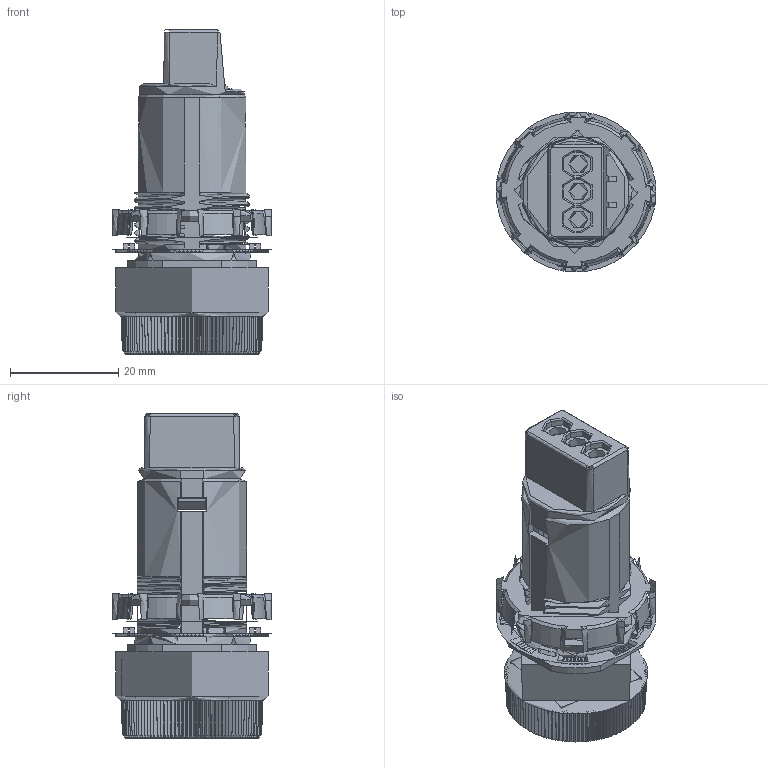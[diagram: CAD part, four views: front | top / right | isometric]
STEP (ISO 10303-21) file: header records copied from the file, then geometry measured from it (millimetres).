
FILE_DESCRIPTION((''),'2; 1');
FILE_NAME('','2026-03-26T16:40:14',(''),(''),'CST STEP Exporter V1.0','Unknown','');
FILE_SCHEMA(('CONFIG_CONTROL_DESIGN'));
Length unit declared in the file: metre
Assembly tree (19 placements, depth 2):
  (unnamed)
    (unnamed)
    (unnamed)
    (unnamed)
    (unnamed)
    (unnamed)
    (unnamed)
    (unnamed)
    (unnamed)
    (unnamed)
    (unnamed)
    (unnamed)
    (unnamed)
    (unnamed)
    (unnamed)
    (unnamed)
    (unnamed)
    (unnamed)
    (unnamed)
    (unnamed)
Bounding box: 29.49 x 29.49 x 59.9 mm (x, y, z)
Topology: 0 solids, 101 shells, 866 faces, 2754 edges, 1947 vertices
Faces by surface type: plane 546, cone 120, cylinder 102, bspline 60, torus 38
Full cylindrical faces by diameter (mm): 2 x16, 3.5 x3, 7.3 x1, 7.5 x1, 8.1 x1, 8.7 x1, 9.3 x1, 9.9 x1, 10.5 x1, 11 x1, 21.8 x1, 22.8 x1, 24.6 x1, 29.5 x1
Entity records: 40930 total; most frequent: CARTESIAN_POINT 11961, ORIENTED_EDGE 4522, DIRECTION 3717, EDGE_CURVE 2738, VERTEX_POINT 1900, VECTOR 1273, LINE 1273, AXIS2_PLACEMENT_3D 1222
